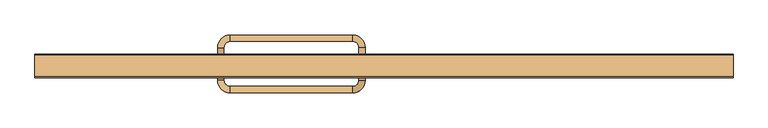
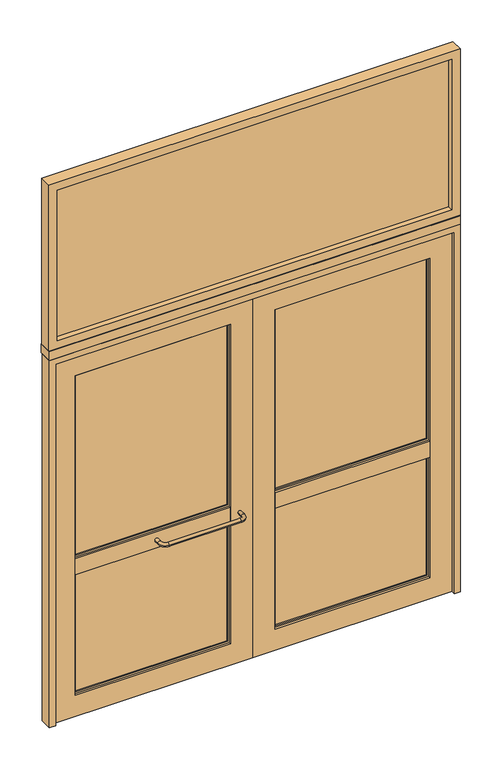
"""IFC4 building model written with IfcOpenShell, lengths in millimetres: door geometry, A1 Puerta batiente doble  VF superior : A1.1 Puerta batiente doble  VF superior 222x310."""

from ifc_helpers import new_model, si_unit, point, frame, origin, place, context, project, spatial, polyline, circle_curve, ellipse_curve, trimmed, outline, extrude, source, transform, mapped, element, save
from ifc_brep_helpers import plane_surface, cylinder_surface, revolved_surface, advanced_brep


def door_4a2cc50b(model_context):
    return source(origin(), model_context, "Body", "SolidModel", [
        advanced_brep(
        [(-80.0, -15.5, 855.0), (-60.0, -15.5, 855.0), (-60.0, -45.5, 855.0), (-80.0, -45.5, 855.0), (-100.0, -65.5, 855.0), (-100.0, -85.5, 855.0), (-490.0, -85.5, 855.0), (-490.0, -65.5, 855.0), (-510.0, -45.5, 855.0), (-530.0, -45.5, 855.0), (-510.0, -15.5, 855.0), (-530.0, -15.5, 855.0)],
        [
            (0, 1, circle_curve(frame((-70.0, -15.5, 855.0), z_axis=(0.0, 1.0, 0.0), x_axis=(1.0, 0.0, 0.0)), 10.0)),
            (1, 0, circle_curve(frame((-70.0, -15.5, 855.0), z_axis=(0.0, 1.0, 0.0), x_axis=(1.0, 0.0, 0.0)), 10.0)),
            (1, 2),
            (2, 3, circle_curve(frame((-70.0, -45.5, 855.0), z_axis=(0.0, 1.0, 0.0), x_axis=(1.0, 0.0, 0.0)), 10.0)),
            (3, 0),
            (3, 2, circle_curve(frame((-70.0, -45.5, 855.0), z_axis=(0.0, 1.0, 0.0), x_axis=(1.0, 0.0, 0.0)), 10.0)),
            (4, 3, circle_curve(frame((-100.0, -45.5, 855.0), z_axis=(0.0, 0.0, 1.0), x_axis=(1.0, 0.0, 0.0)), 20.0)),
            (2, 5, circle_curve(frame((-100.0, -45.5, 855.0), z_axis=(0.0, 0.0, -1.0), x_axis=(1.0, 0.0, 0.0)), 40.0)),
            (5, 4, circle_curve(frame((-100.0, -75.5, 855.0), z_axis=(1.0, 0.0, 0.0), x_axis=(0.0, -1.0, 0.0)), 10.0)),
            (4, 5, circle_curve(frame((-100.0, -75.5, 855.0), z_axis=(1.0, 0.0, 0.0), x_axis=(0.0, -1.0, 0.0)), 10.0)),
            (5, 6),
            (6, 7, circle_curve(frame((-490.0, -75.5, 855.0), z_axis=(1.0, 0.0, 0.0), x_axis=(0.0, -1.0, 0.0)), 10.0)),
            (7, 4),
            (7, 6, circle_curve(frame((-490.0, -75.5, 855.0), z_axis=(1.0, 0.0, 0.0), x_axis=(0.0, -1.0, 0.0)), 10.0)),
            (8, 7, circle_curve(frame((-490.0, -45.5, 855.0), z_axis=(0.0, 0.0, 1.0), x_axis=(0.0, -1.0, 0.0)), 20.0)),
            (6, 9, circle_curve(frame((-490.0, -45.5, 855.0), z_axis=(0.0, 0.0, -1.0), x_axis=(0.0, -1.0, 0.0)), 40.0)),
            (9, 8, circle_curve(frame((-520.0, -45.5, 855.0), z_axis=(0.0, -1.0, 0.0), x_axis=(-1.0, 0.0, 0.0)), 10.0)),
            (8, 9, circle_curve(frame((-520.0, -45.5, 855.0), z_axis=(0.0, -1.0, 0.0), x_axis=(-1.0, 0.0, 0.0)), 10.0)),
            (10, 11, circle_curve(frame((-520.0, -15.5, 855.0), z_axis=(0.0, 1.0, 0.0), x_axis=(-1.0, 0.0, 0.0)), 10.0)),
            (11, 10, circle_curve(frame((-520.0, -15.5, 855.0), z_axis=(0.0, 1.0, 0.0), x_axis=(-1.0, 0.0, 0.0)), 10.0)),
            (9, 11),
            (10, 8),
        ],
        [
            plane_surface(frame((-70.0, -15.5, 855.0), z_axis=(0.0, 1.0, 0.0), x_axis=(0.0, 0.0, 1.0))),
            cylinder_surface(frame((-70.0, -15.5, 855.0), z_axis=(0.0, 1.0, 0.0), x_axis=(1.0, 0.0, 0.0)), 10.0),
            revolved_surface(trimmed(ellipse_curve(frame((-70.0, -45.5, 855.0), z_axis=(0.0, 1.0, 0.0), x_axis=(1.0, 0.0, 0.0)), 10.0, 10.0), [point((-60.0, -45.5, 855.0))], [point((-80.0, -45.5, 855.0))], True, "CARTESIAN"), (-100.0, -45.5, 855.0), (0.0, 0.0, -1.0)),
            revolved_surface(trimmed(ellipse_curve(frame((-70.0, -45.5, 855.0), z_axis=(0.0, 1.0, 0.0), x_axis=(1.0, 0.0, 0.0)), 10.0, 10.0), [point((-80.0, -45.5, 855.0))], [point((-60.0, -45.5, 855.0))], True, "CARTESIAN"), (-100.0, -45.5, 855.0), (0.0, 0.0, -1.0)),
            cylinder_surface(frame((-100.0, -75.5, 855.0), z_axis=(1.0, 0.0, 0.0), x_axis=(0.0, -1.0, 0.0)), 10.0),
            revolved_surface(trimmed(ellipse_curve(frame((-490.0, -75.5, 855.0), z_axis=(1.0, 0.0, 0.0), x_axis=(0.0, -1.0, 0.0)), 10.0, 10.0), [point((-490.0, -85.5, 855.0))], [point((-490.0, -65.5, 855.0))], True, "CARTESIAN"), (-490.0, -45.5, 855.0), (0.0, 0.0, -1.0)),
            revolved_surface(trimmed(ellipse_curve(frame((-490.0, -75.5, 855.0), z_axis=(1.0, 0.0, 0.0), x_axis=(0.0, -1.0, 0.0)), 10.0, 10.0), [point((-490.0, -65.5, 855.0))], [point((-490.0, -85.5, 855.0))], True, "CARTESIAN"), (-490.0, -45.5, 855.0), (0.0, 0.0, -1.0)),
            plane_surface(frame((-520.0, -15.5, 855.0), z_axis=(0.0, 1.0, 0.0), x_axis=(0.0, 0.0, 1.0))),
            cylinder_surface(frame((-520.0, -45.5, 855.0), z_axis=(0.0, -1.0, 0.0), x_axis=(-1.0, 0.0, 0.0)), 10.0),
        ],
        [
            (0, [[1, 2]]),
            (1, [[-2, 3, 4, 5]]),
            (1, [[-1, -5, 6, -3]]),
            (2, [[7, -4, 8, 9]]),
            (3, [[-8, -6, -7, 10]]),
            (4, [[-9, 11, 12, 13]]),
            (4, [[-10, -13, 14, -11]]),
            (5, [[15, -12, 16, 17]]),
            (6, [[-16, -14, -15, 18]]),
            (7, [[19, 20]]),
            (8, [[-17, 21, -19, 22]]),
            (8, [[-18, -22, -20, -21]]),
        ],
    ),
        advanced_brep(
        [(-60.0, 28.5, 855.0), (-80.0, 28.5, 855.0), (-60.0, 58.5, 855.0), (-80.0, 58.5, 855.0), (-100.0, 78.5, 855.0), (-100.0, 98.5, 855.0), (-490.0, 98.5, 855.0), (-490.0, 78.5, 855.0), (-510.0, 58.5, 855.0), (-530.0, 58.5, 855.0), (-530.0, 28.5, 855.0), (-510.0, 28.5, 855.0)],
        [
            (0, 1, circle_curve(frame((-70.0, 28.5, 855.0), z_axis=(0.0, -1.0, 0.0), x_axis=(-1.0, 0.0, 0.0)), 10.0)),
            (1, 0, circle_curve(frame((-70.0, 28.5, 855.0), z_axis=(0.0, -1.0, 0.0), x_axis=(-1.0, 0.0, 0.0)), 10.0)),
            (0, 2),
            (2, 3, circle_curve(frame((-70.0, 58.5, 855.0), z_axis=(0.0, -1.0, 0.0), x_axis=(-1.0, 0.0, 0.0)), 10.0)),
            (3, 1),
            (3, 2, circle_curve(frame((-70.0, 58.5, 855.0), z_axis=(0.0, -1.0, 0.0), x_axis=(-1.0, 0.0, 0.0)), 10.0)),
            (4, 3, circle_curve(frame((-100.0, 58.5, 855.0), z_axis=(0.0, 0.0, -1.0), x_axis=(1.0, 0.0, 0.0)), 20.0)),
            (2, 5, circle_curve(frame((-100.0, 58.5, 855.0), z_axis=(0.0, 0.0, 1.0), x_axis=(1.0, 0.0, 0.0)), 40.0)),
            (5, 4, circle_curve(frame((-100.0, 88.5, 855.0), z_axis=(1.0, 0.0, 0.0), x_axis=(0.0, -1.0, 0.0)), 10.0)),
            (4, 5, circle_curve(frame((-100.0, 88.5, 855.0), z_axis=(1.0, 0.0, 0.0), x_axis=(0.0, -1.0, 0.0)), 10.0)),
            (5, 6),
            (6, 7, circle_curve(frame((-490.0, 88.5, 855.0), z_axis=(1.0, 0.0, 0.0), x_axis=(0.0, -1.0, 0.0)), 10.0)),
            (7, 4),
            (7, 6, circle_curve(frame((-490.0, 88.5, 855.0), z_axis=(1.0, 0.0, 0.0), x_axis=(0.0, -1.0, 0.0)), 10.0)),
            (8, 7, circle_curve(frame((-490.0, 58.5, 855.0), z_axis=(0.0, 0.0, -1.0), x_axis=(0.0, 1.0, 0.0)), 20.0)),
            (6, 9, circle_curve(frame((-490.0, 58.5, 855.0), z_axis=(0.0, 0.0, 1.0), x_axis=(0.0, 1.0, 0.0)), 40.0)),
            (9, 8, circle_curve(frame((-520.0, 58.5, 855.0), z_axis=(0.0, 1.0, 0.0), x_axis=(1.0, 0.0, 0.0)), 10.0)),
            (8, 9, circle_curve(frame((-520.0, 58.5, 855.0), z_axis=(0.0, 1.0, 0.0), x_axis=(1.0, 0.0, 0.0)), 10.0)),
            (10, 11, circle_curve(frame((-520.0, 28.5, 855.0), z_axis=(0.0, -1.0, 0.0), x_axis=(1.0, 0.0, 0.0)), 10.0)),
            (11, 10, circle_curve(frame((-520.0, 28.5, 855.0), z_axis=(0.0, -1.0, 0.0), x_axis=(1.0, 0.0, 0.0)), 10.0)),
            (9, 10),
            (11, 8),
        ],
        [
            plane_surface(frame((-70.0, 28.5, 855.0), z_axis=(0.0, -1.0, 0.0), x_axis=(0.0, 0.0, 1.0))),
            cylinder_surface(frame((-70.0, 28.5, 855.0), z_axis=(0.0, -1.0, 0.0), x_axis=(-1.0, 0.0, 0.0)), 10.0),
            revolved_surface(trimmed(ellipse_curve(frame((-70.0, 58.5, 855.0), z_axis=(0.0, -1.0, 0.0), x_axis=(-1.0, 0.0, 0.0)), 10.0, 10.0), [point((-60.0, 58.5, 855.0))], [point((-80.0, 58.5, 855.0))], True, "CARTESIAN"), (-100.0, 58.5, 855.0), (0.0, 0.0, 1.0)),
            revolved_surface(trimmed(ellipse_curve(frame((-70.0, 58.5, 855.0), z_axis=(0.0, -1.0, 0.0), x_axis=(-1.0, 0.0, 0.0)), 10.0, 10.0), [point((-80.0, 58.5, 855.0))], [point((-60.0, 58.5, 855.0))], True, "CARTESIAN"), (-100.0, 58.5, 855.0), (0.0, 0.0, 1.0)),
            cylinder_surface(frame((-100.0, 88.5, 855.0), z_axis=(1.0, 0.0, 0.0), x_axis=(0.0, -1.0, 0.0)), 10.0),
            revolved_surface(trimmed(ellipse_curve(frame((-490.0, 88.5, 855.0), z_axis=(1.0, 0.0, 0.0), x_axis=(0.0, -1.0, 0.0)), 10.0, 10.0), [point((-490.0, 98.5, 855.0))], [point((-490.0, 78.5, 855.0))], True, "CARTESIAN"), (-490.0, 58.5, 855.0), (0.0, 0.0, 1.0)),
            revolved_surface(trimmed(ellipse_curve(frame((-490.0, 88.5, 855.0), z_axis=(1.0, 0.0, 0.0), x_axis=(0.0, -1.0, 0.0)), 10.0, 10.0), [point((-490.0, 78.5, 855.0))], [point((-490.0, 98.5, 855.0))], True, "CARTESIAN"), (-490.0, 58.5, 855.0), (0.0, 0.0, 1.0)),
            plane_surface(frame((-520.0, 28.5, 855.0), z_axis=(0.0, -1.0, 0.0), x_axis=(0.0, 0.0, 1.0))),
            cylinder_surface(frame((-520.0, 58.5, 855.0), z_axis=(0.0, 1.0, 0.0), x_axis=(1.0, 0.0, 0.0)), 10.0),
        ],
        [
            (0, [[1, 2]]),
            (1, [[-1, 3, 4, 5]]),
            (1, [[-2, -5, 6, -3]]),
            (2, [[7, -4, 8, 9]]),
            (3, [[-8, -6, -7, 10]]),
            (4, [[-9, 11, 12, 13]]),
            (4, [[-10, -13, 14, -11]]),
            (5, [[15, -12, 16, 17]]),
            (6, [[-16, -14, -15, 18]]),
            (7, [[19, 20]]),
            (8, [[-17, 21, -20, 22]]),
            (8, [[-18, -22, -19, -21]]),
        ],
    ),
        extrude(outline(polyline([(1067.5, -3.0), (-1067.5, -3.0), (-1067.5, 3.0), (1067.5, 3.0), (1067.5, -3.0)])), frame((0.0, 0.0, 2195.0), z_axis=(0.0, 0.0, 1.0), x_axis=(1.0, 0.0, 0.0)), (0.0, 0.0, 1.0), 860.0),
        extrude(outline(polyline([(3100.0, -1112.5), (2150.0, -1112.5), (2150.0, 1112.5), (3100.0, 1112.5), (3100.0, -1112.5)]), holes=[polyline([(3055.0, -1067.5), (3055.0, 1067.5), (2195.0, 1067.5), (2195.0, -1067.5), (3055.0, -1067.5)])]), frame((0.0, -33.0, 0.0), z_axis=(0.0, 1.0, 0.0), x_axis=(0.0, 0.0, 1.0)), (0.0, 0.0, 1.0), 66.0),
        extrude(outline(polyline([(-130.0, 3.5), (-949.5, 3.5), (-949.5, 9.5), (-130.0, 9.5), (-130.0, 3.5)])), frame((0.0, 0.0, 910.0), z_axis=(0.0, 0.0, 1.0), x_axis=(1.0, 0.0, 0.0)), (0.0, 0.0, 1.0), 1027.0),
        extrude(outline(polyline([(-130.0, 3.5), (-949.5, 3.5), (-949.5, 9.5), (-130.0, 9.5), (-130.0, 3.5)])), frame((0.0, 0.0, 130.0), z_axis=(0.0, 0.0, 1.0), x_axis=(1.0, 0.0, 0.0)), (0.0, 0.0, 1.0), 670.0),
        extrude(outline(polyline([(1947.0, -959.5), (900.0, -959.5), (900.0, -120.0), (1947.0, -120.0), (1947.0, -959.5)]), holes=[polyline([(1937.0, -949.5), (1937.0, -130.0), (910.0, -130.0), (910.0, -949.5), (1937.0, -949.5)])]), frame((0.0, -3.5, 0.0), z_axis=(0.0, 1.0, 0.0), x_axis=(0.0, 0.0, 1.0)), (0.0, 0.0, 1.0), 20.0),
        extrude(outline(polyline([(810.0, -959.5), (120.0, -959.5), (120.0, -120.0), (810.0, -120.0), (810.0, -959.5)]), holes=[polyline([(800.0, -949.5), (800.0, -130.0), (130.0, -130.0), (130.0, -949.5), (800.0, -949.5)])]), frame((0.0, -3.5, 0.0), z_axis=(0.0, 1.0, 0.0), x_axis=(0.0, 0.0, 1.0)), (0.0, 0.0, 1.0), 20.0),
        extrude(outline(polyline([(-120.0, -15.5), (-959.5, -15.5), (-959.5, 28.5), (-120.0, 28.5), (-120.0, -15.5)])), frame((0.0, 0.0, 810.0), z_axis=(0.0, 0.0, 1.0), x_axis=(1.0, 0.0, 0.0)), (0.0, 0.0, 1.0), 90.0),
        extrude(outline(polyline([(2067.0, -1079.5), (0.0, -1079.5), (0.0, 0.0), (2067.0, 0.0), (2067.0, -1079.5)]), holes=[polyline([(1947.0, -959.5), (1947.0, -120.0), (120.0, -120.0), (120.0, -959.5), (1947.0, -959.5)])]), frame((0.0, -15.5, 0.0), z_axis=(0.0, 1.0, 0.0), x_axis=(0.0, 0.0, 1.0)), (0.0, 0.0, 1.0), 44.0),
        extrude(outline(polyline([(949.5, 3.5), (130.0, 3.5), (130.0, 9.5), (949.5, 9.5), (949.5, 3.5)])), frame((0.0, 0.0, 910.0), z_axis=(0.0, 0.0, 1.0), x_axis=(1.0, 0.0, 0.0)), (0.0, 0.0, 1.0), 1027.0),
        extrude(outline(polyline([(949.5, 3.5), (130.0, 3.5), (130.0, 9.5), (949.5, 9.5), (949.5, 3.5)])), frame((0.0, 0.0, 130.0), z_axis=(0.0, 0.0, 1.0), x_axis=(1.0, 0.0, 0.0)), (0.0, 0.0, 1.0), 670.0),
        extrude(outline(polyline([(1947.0, 120.0), (900.0, 120.0), (900.0, 959.5), (1947.0, 959.5), (1947.0, 120.0)]), holes=[polyline([(1937.0, 130.0), (1937.0, 949.5), (910.0, 949.5), (910.0, 130.0), (1937.0, 130.0)])]), frame((0.0, -3.5, 0.0), z_axis=(0.0, 1.0, 0.0), x_axis=(0.0, 0.0, 1.0)), (0.0, 0.0, 1.0), 20.0),
        extrude(outline(polyline([(810.0, 120.0), (120.0, 120.0), (120.0, 959.5), (810.0, 959.5), (810.0, 120.0)]), holes=[polyline([(800.0, 130.0), (800.0, 949.5), (130.0, 949.5), (130.0, 130.0), (800.0, 130.0)])]), frame((0.0, -3.5, 0.0), z_axis=(0.0, 1.0, 0.0), x_axis=(0.0, 0.0, 1.0)), (0.0, 0.0, 1.0), 20.0),
        extrude(outline(polyline([(959.5, -15.5), (120.0, -15.5), (120.0, 28.5), (959.5, 28.5), (959.5, -15.5)])), frame((0.0, 0.0, 810.0), z_axis=(0.0, 0.0, 1.0), x_axis=(1.0, 0.0, 0.0)), (0.0, 0.0, 1.0), 90.0),
        extrude(outline(polyline([(2067.0, 0.0), (0.0, 0.0), (0.0, 1079.5), (2067.0, 1079.5), (2067.0, 0.0)]), holes=[polyline([(1947.0, 120.0), (1947.0, 959.5), (120.0, 959.5), (120.0, 120.0), (1947.0, 120.0)])]), frame((0.0, -15.5, 0.0), z_axis=(0.0, 1.0, 0.0), x_axis=(0.0, 0.0, 1.0)), (0.0, 0.0, 1.0), 44.0),
        extrude(outline(polyline([(2100.0, 1112.5), (2100.0, -1112.5), (0.0, -1112.5), (0.0, -1079.5), (2067.0, -1079.5), (2067.0, 1079.5), (0.0, 1079.5), (0.0, 1112.5), (2100.0, 1112.5)])), frame((0.0, -37.5, 0.0), z_axis=(0.0, 1.0, 0.0), x_axis=(0.0, 0.0, 1.0)), (0.0, 0.0, 1.0), 66.0),
        extrude(outline(polyline([(1112.5, -37.5), (-1112.5, -37.5), (-1112.5, 37.5), (1112.5, 37.5), (1112.5, -37.5)])), frame((0.0, 0.0, 2100.0), z_axis=(0.0, 0.0, 1.0), x_axis=(1.0, 0.0, 0.0)), (0.0, 0.0, 1.0), 50.0),
    ])


if __name__ == "__main__":
    model = new_model("IFC4")
    model_context = context("Model", 3, world=origin())
    ifc_project = project(units=[si_unit("LENGTHUNIT", "METRE", prefix="MILLI")], contexts=[model_context])
    site = spatial("IfcSite", under=ifc_project)
    building = spatial("IfcBuilding", under=site)
    placement = place(None, origin())
    door_shape = door_4a2cc50b(model_context)
    element("IfcDoor", 1, ObjectType="A1 Puerta batiente doble  VF superior : A1.1 Puerta batiente doble  VF superior 222x310", at=placement, inside=building, context=model_context, shape_type="MappedRepresentation", body=[
        mapped(door_shape, transform((0.0, 0.0, 0.0), x_axis=(1.0, 0.0, 0.0), y_axis=(0.0, 1.0, 0.0), z_axis=(0.0, 0.0, 1.0))),
    ])
    save(model, "model.ifc")
